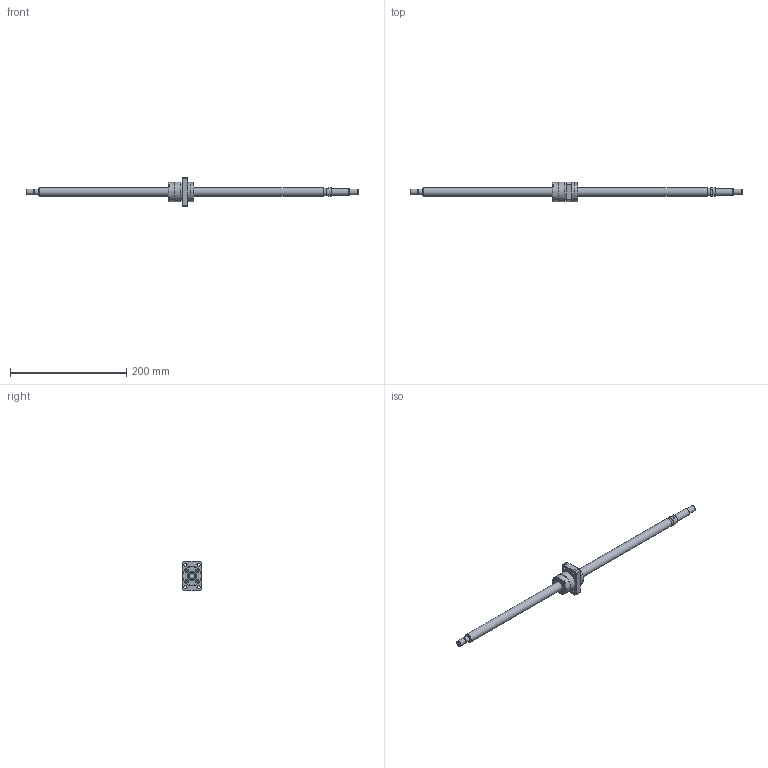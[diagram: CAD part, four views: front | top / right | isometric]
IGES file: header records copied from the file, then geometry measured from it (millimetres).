
Start section: Data from Parasolid IGES Translator 26.0.171, Copyright(c) 2006 Siemens PLM Software. All Rights Reserved.
Global section: file name: BNK1510-5.6G0+571LC5Y(266.50).igs; native system: By Siemens PLM Incorporated; preprocessor: XPlus GENERIC/IGES 26.0.171; author: Noname; organization: Noname; date: 20240709.092256; units: millimetre
Bounding box: 571 x 34 x 50 mm (x, y, z)
Surface area: 38196.4 mm2 (no closed solid volume)
Topology: 0 solids, 0 shells, 140 faces, 649 edges, 589 vertices
Faces by surface type: extrusion 76, revolution 64
